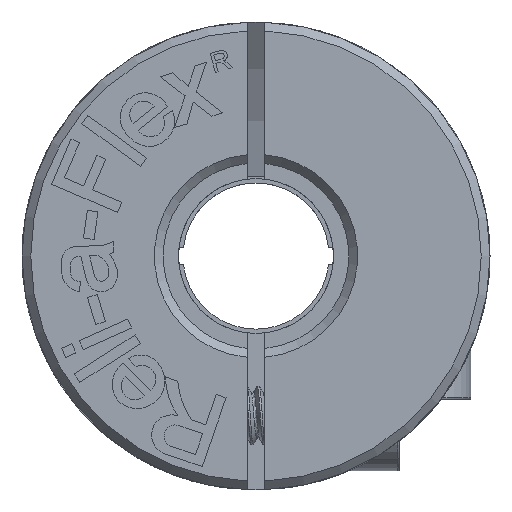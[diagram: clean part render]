
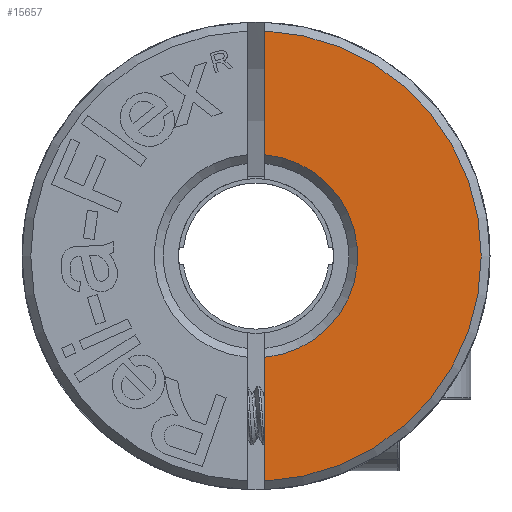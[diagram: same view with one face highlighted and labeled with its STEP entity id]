
A CAD part, front view. The second image highlights one B-rep face of the part: STEP entity #15657.
In plain terms, the highlighted planar face has unit normal (0, -1, 0).
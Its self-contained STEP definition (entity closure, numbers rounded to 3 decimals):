
#8456 = CARTESIAN_POINT ( 'NONE',  ( 0.3, 0., -7.694 ) ) ;
#8463 = CARTESIAN_POINT ( 'NONE',  ( 0.3, 0., 7.694 ) ) ;
#8473 = CARTESIAN_POINT ( 'NONE',  ( 0.3, 0., 3.462 ) ) ;
#8481 = CARTESIAN_POINT ( 'NONE',  ( 0.3, 0., -3.462 ) ) ;
#9086 = CARTESIAN_POINT ( 'NONE',  ( 0., 0., 0. ) ) ;
#9087 = DIRECTION ( 'NONE',  ( 0., 1., 0. ) ) ;
#9088 = DIRECTION ( 'NONE',  ( 0., 0., -1. ) ) ;
#9158 = CARTESIAN_POINT ( 'NONE',  ( 0.3, 0., -5.314 ) ) ;
#9163 = LINE ( 'NONE', #9158, #12003 ) ;
#9167 = CARTESIAN_POINT ( 'NONE',  ( 0.3, 0., 5.314 ) ) ;
#9168 = DIRECTION ( 'NONE',  ( 0., 0., 1. ) ) ;
#9169 = LINE ( 'NONE', #9167, #12010 ) ;
#9170 = CARTESIAN_POINT ( 'NONE',  ( 0., 0., 0. ) ) ;
#9171 = DIRECTION ( 'NONE',  ( 0., 1., 0. ) ) ;
#9172 = DIRECTION ( 'NONE',  ( 0., 0., 1. ) ) ;
#9173 = DIRECTION ( 'NONE',  ( 0., 0., 1. ) ) ;
#11196 = CARTESIAN_POINT ( 'NONE',  ( 0.3, 0., 7.786 ) ) ;
#11199 = FACE_OUTER_BOUND ( 'NONE', #19136, .T. ) ;
#11200 = PLANE ( 'NONE',  #18848 ) ;
#11203 = DIRECTION ( 'NONE',  ( 0., -1., 0. ) ) ;
#11204 = DIRECTION ( 'NONE',  ( 0., 0., -1. ) ) ;
#11970 = CIRCLE ( 'NONE', #11976, 3.475 ) ;
#11976 = AXIS2_PLACEMENT_3D ( 'NONE', #9086, #9087, #9088 ) ;
#12003 = VECTOR ( 'NONE', #9168, 1000. ) ;
#12008 = CIRCLE ( 'NONE', #12012, 7.7 ) ;
#12010 = VECTOR ( 'NONE', #9173, 1000. ) ;
#12012 = AXIS2_PLACEMENT_3D ( 'NONE', #9170, #9171, #9172 ) ;
#15247 = ORIENTED_EDGE ( 'NONE', *, *, #18541, .F. ) ;
#15248 = ORIENTED_EDGE ( 'NONE', *, *, #18542, .F. ) ;
#15249 = ORIENTED_EDGE ( 'NONE', *, *, #18543, .F. ) ;
#15250 = ORIENTED_EDGE ( 'NONE', *, *, #18515, .T. ) ;
#15657 = ADVANCED_FACE ( 'NONE', ( #11199 ), #11200, .T. ) ;
#17965 = VERTEX_POINT ( 'NONE', #8456 ) ;
#17972 = VERTEX_POINT ( 'NONE', #8463 ) ;
#17982 = VERTEX_POINT ( 'NONE', #8473 ) ;
#17990 = VERTEX_POINT ( 'NONE', #8481 ) ;
#18515 = EDGE_CURVE ( 'NONE', #17982, #17990, #11970, .T. ) ;
#18541 = EDGE_CURVE ( 'NONE', #17965, #17990, #9163, .T. ) ;
#18542 = EDGE_CURVE ( 'NONE', #17972, #17965, #12008, .T. ) ;
#18543 = EDGE_CURVE ( 'NONE', #17982, #17972, #9169, .T. ) ;
#18848 = AXIS2_PLACEMENT_3D ( 'NONE', #11196, #11203, #11204 ) ;
#19136 = EDGE_LOOP ( 'NONE', ( #15247, #15248, #15249, #15250 ) ) ;
